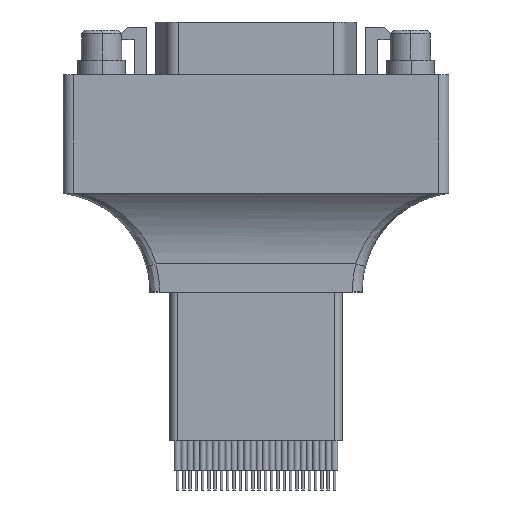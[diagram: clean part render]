
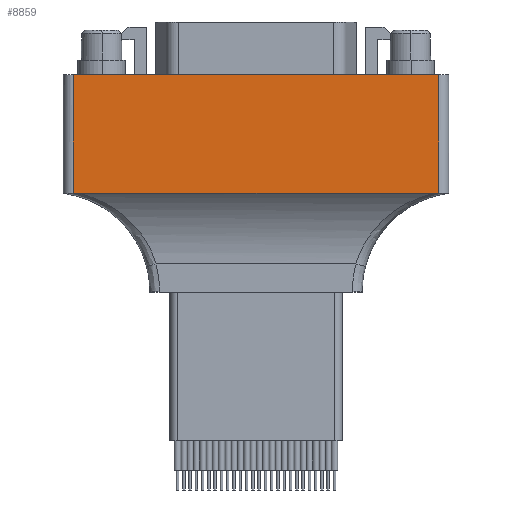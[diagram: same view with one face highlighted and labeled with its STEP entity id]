
A CAD part, front view. The second image highlights one B-rep face of the part: STEP entity #8859.
In plain terms, the highlighted planar face has unit normal (0, -1, 0).
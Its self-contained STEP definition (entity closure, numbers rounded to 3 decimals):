
#314 = B_SPLINE_CURVE_WITH_KNOTS ( 'NONE', 3,
 ( #16415, #14744, #14940, #11761 ),
 .UNSPECIFIED., .F., .F.,
 ( 4, 4 ),
 ( 0., 0.001 ),
 .UNSPECIFIED. ) ;
#1665 = DIRECTION ( 'NONE',  ( 1., 0., 0. ) ) ;
#2865 = LINE ( 'NONE', #13612, #8739 ) ;
#3063 = CARTESIAN_POINT ( 'NONE',  ( 18.5, -6., -11.982 ) ) ;
#3198 = CARTESIAN_POINT ( 'NONE',  ( 18.5, -6., -11.982 ) ) ;
#4132 = VECTOR ( 'NONE', #19482, 1000. ) ;
#4637 = EDGE_CURVE ( 'NONE', #16804, #10136, #13930, .T. ) ;
#4700 = ORIENTED_EDGE ( 'NONE', *, *, #13106, .T. ) ;
#4765 = CARTESIAN_POINT ( 'NONE',  ( 19.5, -6., 0. ) ) ;
#5695 = CARTESIAN_POINT ( 'NONE',  ( 18.129, -6., -12. ) ) ;
#5730 = AXIS2_PLACEMENT_3D ( 'NONE', #4765, #10895, #12086 ) ;
#5813 = B_SPLINE_CURVE_WITH_KNOTS ( 'NONE', 3,
 ( #9975, #5695, #13617, #3063 ),
 .UNSPECIFIED., .F., .F.,
 ( 4, 4 ),
 ( 0., 0.001 ),
 .UNSPECIFIED. ) ;
#6185 = ORIENTED_EDGE ( 'NONE', *, *, #18542, .T. ) ;
#6261 = EDGE_CURVE ( 'NONE', #12527, #13253, #314, .T. ) ;
#6288 = CARTESIAN_POINT ( 'NONE',  ( 17.943, -6., -12. ) ) ;
#6475 = CARTESIAN_POINT ( 'NONE',  ( -17.943, -6., -12. ) ) ;
#6580 = CARTESIAN_POINT ( 'NONE',  ( 18.5, -6., 0. ) ) ;
#8739 = VECTOR ( 'NONE', #13518, 1000. ) ;
#8859 = ADVANCED_FACE ( 'NONE', ( #15081 ), #15272, .T. ) ;
#8863 = EDGE_CURVE ( 'NONE', #13253, #11060, #12180, .T. ) ;
#9141 = LINE ( 'NONE', #18174, #4132 ) ;
#9975 = CARTESIAN_POINT ( 'NONE',  ( 17.943, -6., -12. ) ) ;
#10136 = VERTEX_POINT ( 'NONE', #11073 ) ;
#10895 = DIRECTION ( 'NONE',  ( 0., -1., 0. ) ) ;
#11060 = VERTEX_POINT ( 'NONE', #6288 ) ;
#11073 = CARTESIAN_POINT ( 'NONE',  ( 18.5, -6., 0. ) ) ;
#11461 = ORIENTED_EDGE ( 'NONE', *, *, #16135, .F. ) ;
#11761 = CARTESIAN_POINT ( 'NONE',  ( -17.943, -6., -12. ) ) ;
#11960 = EDGE_LOOP ( 'NONE', ( #14976, #4700, #17515, #11461, #6185, #17545 ) ) ;
#12086 = DIRECTION ( 'NONE',  ( 0., 0., -1. ) ) ;
#12180 = LINE ( 'NONE', #13600, #14304 ) ;
#12425 = DIRECTION ( 'NONE',  ( 0., 0., 1. ) ) ;
#12527 = VERTEX_POINT ( 'NONE', #13570 ) ;
#13106 = EDGE_CURVE ( 'NONE', #11060, #16804, #5813, .T. ) ;
#13253 = VERTEX_POINT ( 'NONE', #6475 ) ;
#13518 = DIRECTION ( 'NONE',  ( 0., 0., -1. ) ) ;
#13570 = CARTESIAN_POINT ( 'NONE',  ( -18.5, -6., -11.982 ) ) ;
#13600 = CARTESIAN_POINT ( 'NONE',  ( 19.5, -6., -12. ) ) ;
#13612 = CARTESIAN_POINT ( 'NONE',  ( -18.5, -6., 0. ) ) ;
#13617 = CARTESIAN_POINT ( 'NONE',  ( 18.314, -6., -11.992 ) ) ;
#13930 = LINE ( 'NONE', #6580, #16467 ) ;
#14304 = VECTOR ( 'NONE', #1665, 1000. ) ;
#14744 = CARTESIAN_POINT ( 'NONE',  ( -18.314, -6., -11.992 ) ) ;
#14940 = CARTESIAN_POINT ( 'NONE',  ( -18.129, -6., -12. ) ) ;
#14976 = ORIENTED_EDGE ( 'NONE', *, *, #8863, .T. ) ;
#15081 = FACE_OUTER_BOUND ( 'NONE', #11960, .T. ) ;
#15272 = PLANE ( 'NONE',  #5730 ) ;
#16135 = EDGE_CURVE ( 'NONE', #16308, #10136, #9141, .T. ) ;
#16308 = VERTEX_POINT ( 'NONE', #19352 ) ;
#16415 = CARTESIAN_POINT ( 'NONE',  ( -18.5, -6., -11.982 ) ) ;
#16467 = VECTOR ( 'NONE', #12425, 1000. ) ;
#16804 = VERTEX_POINT ( 'NONE', #3198 ) ;
#17515 = ORIENTED_EDGE ( 'NONE', *, *, #4637, .T. ) ;
#17545 = ORIENTED_EDGE ( 'NONE', *, *, #6261, .T. ) ;
#18174 = CARTESIAN_POINT ( 'NONE',  ( 0., -6., 0. ) ) ;
#18542 = EDGE_CURVE ( 'NONE', #16308, #12527, #2865, .T. ) ;
#19352 = CARTESIAN_POINT ( 'NONE',  ( -18.5, -6., 0. ) ) ;
#19482 = DIRECTION ( 'NONE',  ( 1., 0., 0. ) ) ;
